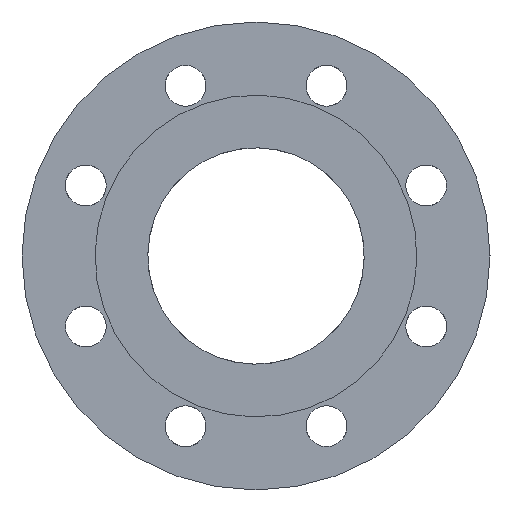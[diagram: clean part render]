
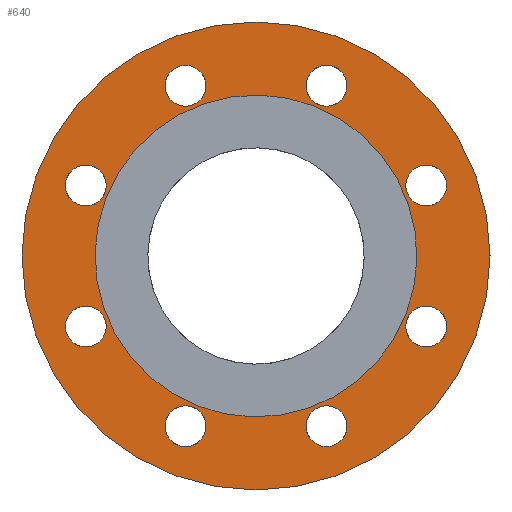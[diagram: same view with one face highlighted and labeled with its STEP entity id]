
A CAD part, front view. The second image highlights one B-rep face of the part: STEP entity #640.
In plain terms, the highlighted planar face has unit normal (0, -1, 0).
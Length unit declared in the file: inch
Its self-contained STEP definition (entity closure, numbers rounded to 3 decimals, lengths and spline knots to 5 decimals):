
#23=PLANE('',#722);
#74=FACE_BOUND('',#219,.T.);
#75=FACE_BOUND('',#220,.T.);
#76=FACE_BOUND('',#221,.T.);
#77=FACE_BOUND('',#222,.T.);
#78=FACE_BOUND('',#223,.T.);
#79=FACE_BOUND('',#224,.T.);
#80=FACE_BOUND('',#225,.T.);
#81=FACE_BOUND('',#226,.T.);
#82=FACE_BOUND('',#227,.T.);
#131=FACE_OUTER_BOUND('',#218,.T.);
#218=EDGE_LOOP('',(#503));
#219=EDGE_LOOP('',(#504));
#220=EDGE_LOOP('',(#505));
#221=EDGE_LOOP('',(#506));
#222=EDGE_LOOP('',(#507));
#223=EDGE_LOOP('',(#508));
#224=EDGE_LOOP('',(#509));
#225=EDGE_LOOP('',(#510));
#226=EDGE_LOOP('',(#511));
#227=EDGE_LOOP('',(#512));
#292=CIRCLE('',#716,3.4375);
#295=CIRCLE('',#723,5.);
#296=CIRCLE('',#724,0.4375);
#297=CIRCLE('',#725,0.4375);
#298=CIRCLE('',#726,0.4375);
#299=CIRCLE('',#727,0.4375);
#300=CIRCLE('',#728,0.4375);
#301=CIRCLE('',#729,0.4375);
#302=CIRCLE('',#730,0.4375);
#303=CIRCLE('',#731,0.4375);
#349=VERTEX_POINT('',#1049);
#352=VERTEX_POINT('',#1059);
#353=VERTEX_POINT('',#1061);
#354=VERTEX_POINT('',#1063);
#355=VERTEX_POINT('',#1065);
#356=VERTEX_POINT('',#1067);
#357=VERTEX_POINT('',#1069);
#358=VERTEX_POINT('',#1071);
#359=VERTEX_POINT('',#1073);
#360=VERTEX_POINT('',#1075);
#406=EDGE_CURVE('',#349,#349,#292,.T.);
#409=EDGE_CURVE('',#352,#352,#295,.T.);
#410=EDGE_CURVE('',#353,#353,#296,.T.);
#411=EDGE_CURVE('',#354,#354,#297,.T.);
#412=EDGE_CURVE('',#355,#355,#298,.T.);
#413=EDGE_CURVE('',#356,#356,#299,.T.);
#414=EDGE_CURVE('',#357,#357,#300,.T.);
#415=EDGE_CURVE('',#358,#358,#301,.T.);
#416=EDGE_CURVE('',#359,#359,#302,.T.);
#417=EDGE_CURVE('',#360,#360,#303,.T.);
#503=ORIENTED_EDGE('',*,*,#409,.F.);
#504=ORIENTED_EDGE('',*,*,#406,.T.);
#505=ORIENTED_EDGE('',*,*,#410,.T.);
#506=ORIENTED_EDGE('',*,*,#411,.T.);
#507=ORIENTED_EDGE('',*,*,#412,.T.);
#508=ORIENTED_EDGE('',*,*,#413,.T.);
#509=ORIENTED_EDGE('',*,*,#414,.T.);
#510=ORIENTED_EDGE('',*,*,#415,.T.);
#511=ORIENTED_EDGE('',*,*,#416,.T.);
#512=ORIENTED_EDGE('',*,*,#417,.T.);
#640=ADVANCED_FACE('',(#131,#74,#75,#76,#77,#78,#79,#80,#81,#82),#23,.F.);
#716=AXIS2_PLACEMENT_3D('',#1050,#879,#880);
#722=AXIS2_PLACEMENT_3D('',#1058,#891,#892);
#723=AXIS2_PLACEMENT_3D('',#1060,#893,#894);
#724=AXIS2_PLACEMENT_3D('',#1062,#895,#896);
#725=AXIS2_PLACEMENT_3D('',#1064,#897,#898);
#726=AXIS2_PLACEMENT_3D('',#1066,#899,#900);
#727=AXIS2_PLACEMENT_3D('',#1068,#901,#902);
#728=AXIS2_PLACEMENT_3D('',#1070,#903,#904);
#729=AXIS2_PLACEMENT_3D('',#1072,#905,#906);
#730=AXIS2_PLACEMENT_3D('',#1074,#907,#908);
#731=AXIS2_PLACEMENT_3D('',#1076,#909,#910);
#879=DIRECTION('center_axis',(0.,1.,0.));
#880=DIRECTION('ref_axis',(-0.48,0.,0.877));
#891=DIRECTION('center_axis',(0.,1.,0.));
#892=DIRECTION('ref_axis',(0.,0.,-1.));
#893=DIRECTION('center_axis',(0.,1.,0.));
#894=DIRECTION('ref_axis',(-1.,0.,0.));
#895=DIRECTION('center_axis',(0.,1.,0.));
#896=DIRECTION('ref_axis',(-1.,0.,0.));
#897=DIRECTION('center_axis',(0.,1.,0.));
#898=DIRECTION('ref_axis',(-0.707,0.,-0.707));
#899=DIRECTION('center_axis',(0.,1.,0.));
#900=DIRECTION('ref_axis',(0.,0.,-1.));
#901=DIRECTION('center_axis',(0.,1.,0.));
#902=DIRECTION('ref_axis',(0.707,0.,-0.707));
#903=DIRECTION('center_axis',(0.,1.,0.));
#904=DIRECTION('ref_axis',(1.,0.,0.));
#905=DIRECTION('center_axis',(0.,1.,0.));
#906=DIRECTION('ref_axis',(0.707,0.,0.707));
#907=DIRECTION('center_axis',(0.,1.,0.));
#908=DIRECTION('ref_axis',(0.,0.,1.));
#909=DIRECTION('center_axis',(0.,1.,0.));
#910=DIRECTION('ref_axis',(-0.707,0.,0.707));
#1049=CARTESIAN_POINT('',(1.65012,0.375,-3.01554));
#1050=CARTESIAN_POINT('Origin',(0.,0.375,
0.));
#1058=CARTESIAN_POINT('Origin',(0.,0.375,
0.));
#1059=CARTESIAN_POINT('',(5.,0.375,0.));
#1060=CARTESIAN_POINT('Origin',(0.,0.375,
0.));
#1061=CARTESIAN_POINT('',(-1.94432,0.375,3.63778));
#1062=CARTESIAN_POINT('Origin',(-1.50682,0.375,3.63778));
#1063=CARTESIAN_POINT('',(-3.94713,0.375,1.19746));
#1064=CARTESIAN_POINT('Origin',(-3.63778,0.375,1.50682));
#1065=CARTESIAN_POINT('',(-3.63778,0.375,-1.94432));
#1066=CARTESIAN_POINT('Origin',(-3.63778,0.375,-1.50682));
#1067=CARTESIAN_POINT('',(-1.19746,0.375,-3.94713));
#1068=CARTESIAN_POINT('Origin',(-1.50682,0.375,-3.63778));
#1069=CARTESIAN_POINT('',(1.94432,0.375,-3.63778));
#1070=CARTESIAN_POINT('Origin',(1.50682,0.375,-3.63778));
#1071=CARTESIAN_POINT('',(3.94713,0.375,-1.19746));
#1072=CARTESIAN_POINT('Origin',(3.63778,0.375,-1.50682));
#1073=CARTESIAN_POINT('',(3.63778,0.375,1.94432));
#1074=CARTESIAN_POINT('Origin',(3.63778,0.375,1.50682));
#1075=CARTESIAN_POINT('',(1.19746,0.375,3.94713));
#1076=CARTESIAN_POINT('Origin',(1.50682,0.375,3.63778));
